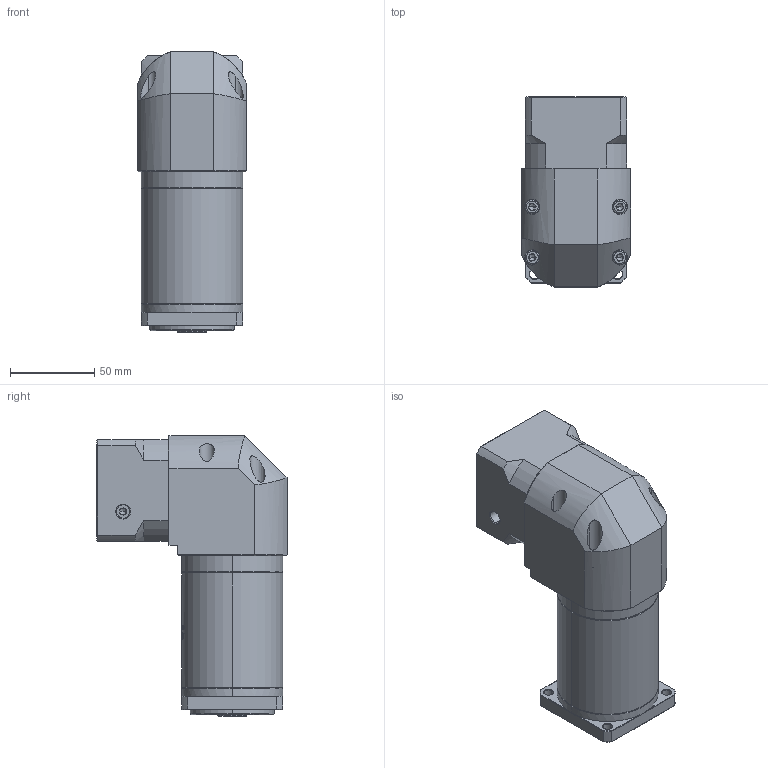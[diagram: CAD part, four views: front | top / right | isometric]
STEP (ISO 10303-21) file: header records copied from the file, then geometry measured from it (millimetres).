
FILE_DESCRIPTION (( 'STEP AP214' ), '1' );
FILE_NAME ('ZFR060-K10-L3-P2-14-50-70-M5.step', '2023-08-17T03:39:38', ( '' ), ( '' ), 'SwSTEP 2.0', 'SolidWorks 2016', '' );
FILE_SCHEMA (( 'AUTOMOTIVE_DESIGN' ));
Length unit declared in the file: millimetre
Products named in the file (1): ZFR060-K10-L3-P2-14-50-70-M5
Bounding box: 65 x 112.7 x 166.5 mm (x, y, z)
Volume: 628505.4 mm3; surface area: 84094.3 mm2
Topology: 5 solids, 6 shells, 1857 faces, 4955 edges, 3194 vertices
Faces by surface type: plane 840, cylinder 364, bspline 359, cone 282, torus 12
Entity records: 100424 total; most frequent: CARTESIAN_POINT 37687, ORIENTED_EDGE 9870, DIRECTION 7374, EDGE_CURVE 4935, VERTEX_POINT 3194, LINE 2554, VECTOR 2554, AXIS2_PLACEMENT_3D 2410
